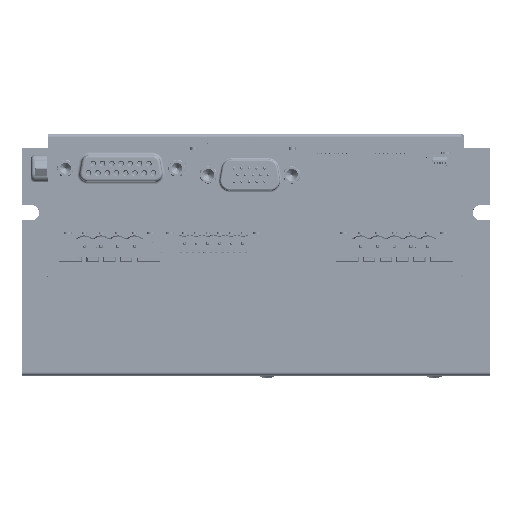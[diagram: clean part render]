
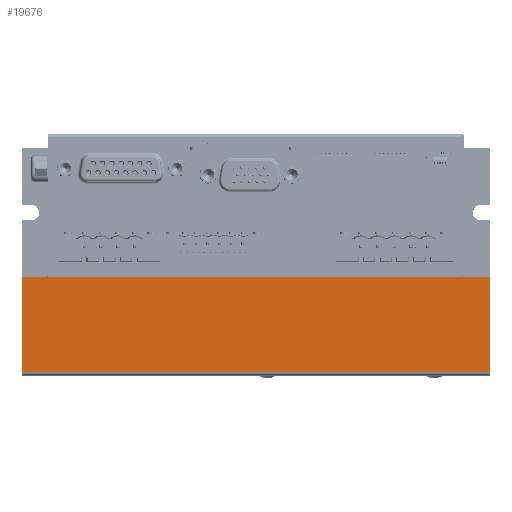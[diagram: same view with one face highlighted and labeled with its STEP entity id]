
A CAD part, top view. The second image highlights one B-rep face of the part: STEP entity #19676.
In plain terms, the highlighted planar face has unit normal (0, 0, 1).
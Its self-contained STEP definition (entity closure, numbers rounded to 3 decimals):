
#355 = CARTESIAN_POINT ( 'NONE',  ( 0., 4., 105. ) ) ;
#1406 = ORIENTED_EDGE ( 'NONE', *, *, #26936, .T. ) ;
#5368 = EDGE_CURVE ( 'NONE', #173897, #82483, #170700, .T. ) ;
#8061 = CARTESIAN_POINT ( 'NONE',  ( -140., -24.5, 105. ) ) ;
#10671 = CARTESIAN_POINT ( 'NONE',  ( -140., 4., 105. ) ) ;
#17240 = DIRECTION ( 'NONE',  ( -1., 0., 0. ) ) ;
#19676 = ADVANCED_FACE ( 'NONE', ( #125593 ), #84026, .F. ) ;
#26936 = EDGE_CURVE ( 'NONE', #93585, #173897, #80365, .T. ) ;
#38906 = EDGE_CURVE ( 'NONE', #93585, #215480, #123250, .T. ) ;
#47423 = CARTESIAN_POINT ( 'NONE',  ( -140., -24.5, 105. ) ) ;
#54229 = VECTOR ( 'NONE', #106487, 1000. ) ;
#55966 = VECTOR ( 'NONE', #222989, 1000. ) ;
#58336 = VECTOR ( 'NONE', #167734, 1000. ) ;
#80365 = LINE ( 'NONE', #83846, #54229 ) ;
#82483 = VERTEX_POINT ( 'NONE', #118741 ) ;
#83846 = CARTESIAN_POINT ( 'NONE',  ( 0., 0., 105. ) ) ;
#84026 = PLANE ( 'NONE',  #197969 ) ;
#92266 = ORIENTED_EDGE ( 'NONE', *, *, #104344, .F. ) ;
#93585 = VERTEX_POINT ( 'NONE', #258284 ) ;
#104344 = EDGE_CURVE ( 'NONE', #215480, #82483, #115725, .T. ) ;
#106487 = DIRECTION ( 'NONE',  ( 0., 1., 0. ) ) ;
#106671 = CARTESIAN_POINT ( 'NONE',  ( -140., 0., 105. ) ) ;
#115725 = LINE ( 'NONE', #133612, #55966 ) ;
#118741 = CARTESIAN_POINT ( 'NONE',  ( -140., 4., 105. ) ) ;
#123250 = LINE ( 'NONE', #8061, #235716 ) ;
#125593 = FACE_OUTER_BOUND ( 'NONE', #176961, .T. ) ;
#133612 = CARTESIAN_POINT ( 'NONE',  ( -140., 42.85, 105. ) ) ;
#151702 = DIRECTION ( 'NONE',  ( 0., 0., -1. ) ) ;
#164020 = ORIENTED_EDGE ( 'NONE', *, *, #38906, .F. ) ;
#165126 = DIRECTION ( 'NONE',  ( -1., 0., 0. ) ) ;
#167734 = DIRECTION ( 'NONE',  ( -1., 0., 0. ) ) ;
#170700 = LINE ( 'NONE', #10671, #58336 ) ;
#173897 = VERTEX_POINT ( 'NONE', #355 ) ;
#176961 = EDGE_LOOP ( 'NONE', ( #209280, #92266, #164020, #1406 ) ) ;
#197969 = AXIS2_PLACEMENT_3D ( 'NONE', #106671, #151702, #17240 ) ;
#209280 = ORIENTED_EDGE ( 'NONE', *, *, #5368, .T. ) ;
#215480 = VERTEX_POINT ( 'NONE', #47423 ) ;
#222989 = DIRECTION ( 'NONE',  ( 0., 1., 0. ) ) ;
#235716 = VECTOR ( 'NONE', #165126, 1000. ) ;
#258284 = CARTESIAN_POINT ( 'NONE',  ( 0., -24.5, 105. ) ) ;
